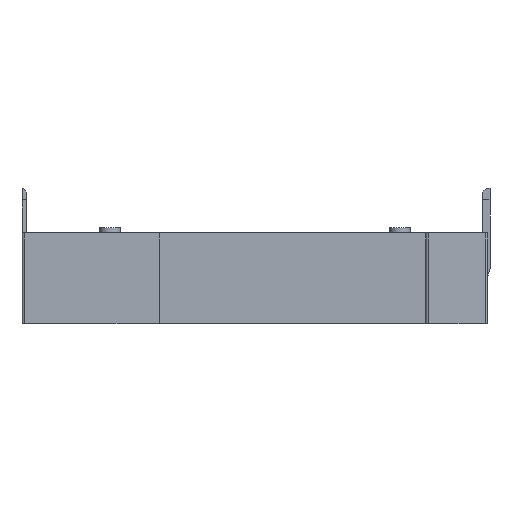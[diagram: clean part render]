
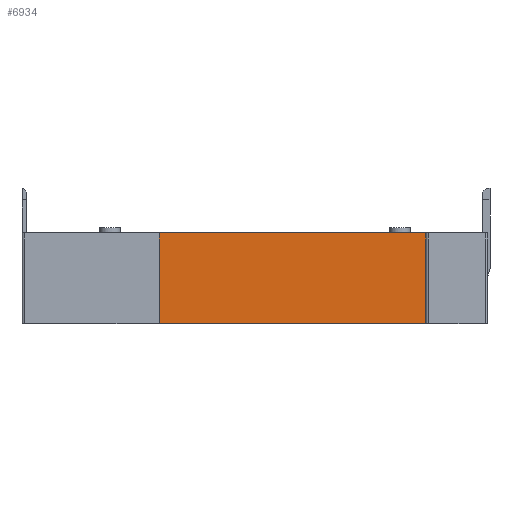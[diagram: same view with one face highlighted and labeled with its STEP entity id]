
A CAD part, front view. The second image highlights one B-rep face of the part: STEP entity #6934.
In plain terms, the highlighted planar face has unit normal (0, -1, 0).
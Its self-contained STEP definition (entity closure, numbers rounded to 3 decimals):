
#6644 = VERTEX_POINT ( 'NONE', #18109 ) ;
#6646 = EDGE_CURVE ( 'NONE', #6644, #6647, #17991, .T. ) ;
#6647 = VERTEX_POINT ( 'NONE', #17987 ) ;
#6929 = VERTEX_POINT ( 'NONE', #19197 ) ;
#6931 = EDGE_CURVE ( 'NONE', #6644, #6929, #19195, .T. ) ;
#6934 = ADVANCED_FACE ( 'NONE', ( #19191 ), #19288, .F. ) ;
#6935 = EDGE_LOOP ( 'NONE', ( #6936, #6939, #6941, #6942 ) ) ;
#6936 = ORIENTED_EDGE ( 'NONE', *, *, #6937, .T. ) ;
#6937 = EDGE_CURVE ( 'NONE', #6929, #6938, #19283, .T. ) ;
#6938 = VERTEX_POINT ( 'NONE', #19279 ) ;
#6939 = ORIENTED_EDGE ( 'NONE', *, *, #6940, .F. ) ;
#6940 = EDGE_CURVE ( 'NONE', #6647, #6938, #19278, .T. ) ;
#6941 = ORIENTED_EDGE ( 'NONE', *, *, #6646, .F. ) ;
#6942 = ORIENTED_EDGE ( 'NONE', *, *, #6931, .T. ) ;
#17987 = CARTESIAN_POINT ( 'NONE',  ( 78., 5.5, 17.5 ) ) ;
#17988 = DIRECTION ( 'NONE',  ( 1., 0., 0. ) ) ;
#17989 = VECTOR ( 'NONE', #17988, 1000. ) ;
#17990 = CARTESIAN_POINT ( 'NONE',  ( 26.5, 5.5, 17.5 ) ) ;
#17991 = LINE ( 'NONE', #17990, #17989 ) ;
#18109 = CARTESIAN_POINT ( 'NONE',  ( 26.5, 5.5, 17.5 ) ) ;
#19191 = FACE_OUTER_BOUND ( 'NONE', #6935, .T. ) ;
#19192 = DIRECTION ( 'NONE',  ( 0., 0., -1. ) ) ;
#19193 = VECTOR ( 'NONE', #19192, 1000. ) ;
#19194 = CARTESIAN_POINT ( 'NONE',  ( 26.5, 5.5, 17.5 ) ) ;
#19195 = LINE ( 'NONE', #19194, #19193 ) ;
#19197 = CARTESIAN_POINT ( 'NONE',  ( 26.5, 5.5, 0. ) ) ;
#19275 = DIRECTION ( 'NONE',  ( 0., 0., -1. ) ) ;
#19276 = VECTOR ( 'NONE', #19275, 1000. ) ;
#19277 = CARTESIAN_POINT ( 'NONE',  ( 78., 5.5, 17.5 ) ) ;
#19278 = LINE ( 'NONE', #19277, #19276 ) ;
#19279 = CARTESIAN_POINT ( 'NONE',  ( 78., 5.5, 0. ) ) ;
#19280 = DIRECTION ( 'NONE',  ( 1., 0., 0. ) ) ;
#19281 = VECTOR ( 'NONE', #19280, 1000. ) ;
#19282 = CARTESIAN_POINT ( 'NONE',  ( 26.5, 5.5, 0. ) ) ;
#19283 = LINE ( 'NONE', #19282, #19281 ) ;
#19284 = DIRECTION ( 'NONE',  ( 0., 0., 1. ) ) ;
#19285 = DIRECTION ( 'NONE',  ( 0., 1., 0. ) ) ;
#19286 = CARTESIAN_POINT ( 'NONE',  ( 26.5, 5.5, 17.5 ) ) ;
#19287 = AXIS2_PLACEMENT_3D ( 'NONE', #19286, #19285, #19284 ) ;
#19288 = PLANE ( 'NONE',  #19287 ) ;
